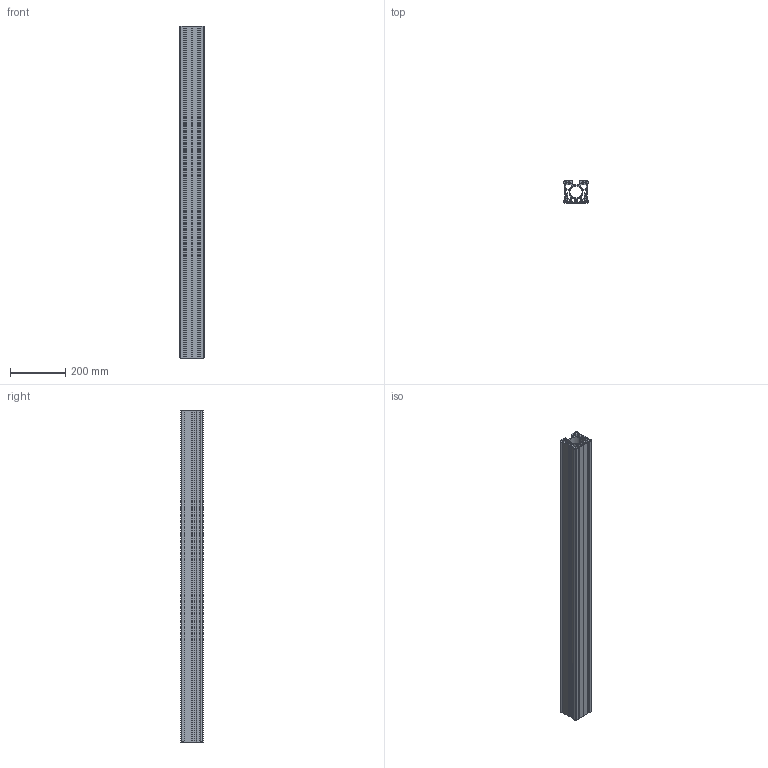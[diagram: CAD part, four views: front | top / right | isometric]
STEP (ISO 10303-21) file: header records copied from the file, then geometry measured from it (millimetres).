
FILE_DESCRIPTION (( 'STEP AP203' ), '1' );
FILE_NAME ('_-_MLF 4 1198 mm lang.step', '2005-09-01T12:46:08', ( ' ' ), ( ' ' ), 'SwSTEP 2.0', 'SolidWorks 2005187', '' );
FILE_SCHEMA (( 'CONFIG_CONTROL_DESIGN' ));
Length unit declared in the file: millimetre
Products named in the file (1): _-_MLF 4  1198 mm lang
Bounding box: 87.6 x 80 x 1198 mm (x, y, z)
Volume: 2760010.7 mm3; surface area: 1482397.5 mm2
Topology: 1 solids, 1 shells, 248 faces, 762 edges, 500 vertices
Faces by surface type: plane 174, cylinder 74
Entity records: 8575 total; most frequent: ORIENTED_EDGE 1524, CARTESIAN_POINT 1511, DIRECTION 1408, EDGE_CURVE 762, VECTOR 614, LINE 614, VERTEX_POINT 500, AXIS2_PLACEMENT_3D 397
